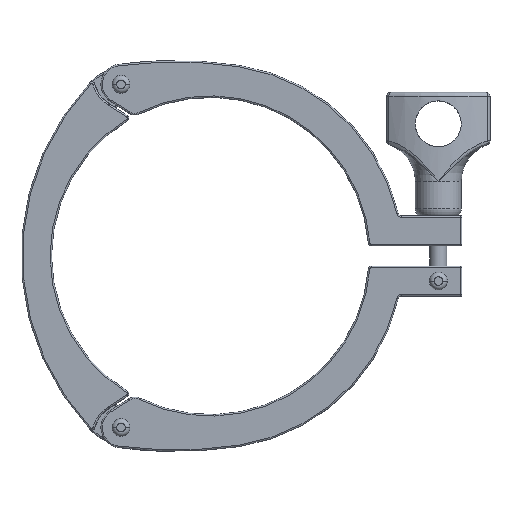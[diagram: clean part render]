
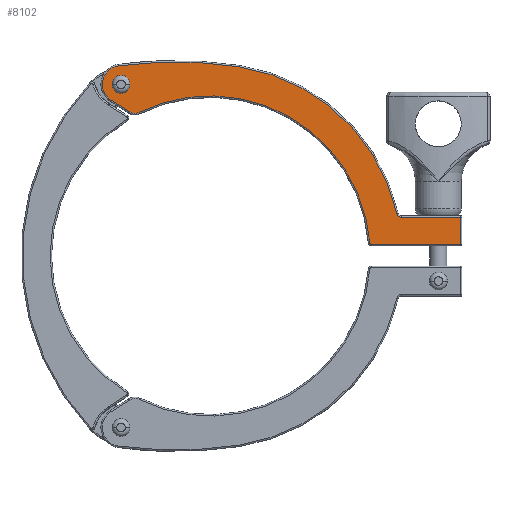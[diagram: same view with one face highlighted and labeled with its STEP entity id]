
A CAD part, top view. The second image highlights one B-rep face of the part: STEP entity #8102.
In plain terms, the highlighted planar face has unit normal (0, 0, 1).
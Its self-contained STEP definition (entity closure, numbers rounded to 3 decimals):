
#202 = VERTEX_POINT ( 'NONE', #16806 ) ;
#465 = DIRECTION ( 'NONE',  ( 0., 0., -1. ) ) ;
#601 = LINE ( 'NONE', #13490, #9735 ) ;
#717 = ORIENTED_EDGE ( 'NONE', *, *, #5916, .T. ) ;
#753 = DIRECTION ( 'NONE',  ( 0., 0., 1. ) ) ;
#900 = ORIENTED_EDGE ( 'NONE', *, *, #6591, .T. ) ;
#917 = EDGE_CURVE ( 'NONE', #4193, #10293, #17503, .T. ) ;
#952 = AXIS2_PLACEMENT_3D ( 'NONE', #12270, #10872, #9201 ) ;
#958 = CARTESIAN_POINT ( 'NONE',  ( -26.219, 53.133, 9.4 ) ) ;
#1240 = DIRECTION ( 'NONE',  ( 1., 0., 0. ) ) ;
#1431 = VERTEX_POINT ( 'NONE', #10797 ) ;
#1679 = EDGE_CURVE ( 'NONE', #17566, #202, #601, .T. ) ;
#1992 = VECTOR ( 'NONE', #7336, 1000. ) ;
#2021 = ORIENTED_EDGE ( 'NONE', *, *, #15983, .T. ) ;
#2198 = VERTEX_POINT ( 'NONE', #4668 ) ;
#2317 = CARTESIAN_POINT ( 'NONE',  ( 0., 0., 9.4 ) ) ;
#2442 = CARTESIAN_POINT ( 'NONE',  ( 56.07, 4., 9.4 ) ) ;
#2622 = LINE ( 'NONE', #17201, #17672 ) ;
#2687 = CARTESIAN_POINT ( 'NONE',  ( -33.78, 59.75, 9.4 ) ) ;
#2757 = EDGE_CURVE ( 'NONE', #8832, #9497, #3081, .T. ) ;
#3081 = CIRCLE ( 'NONE', #9080, 3.5 ) ;
#3161 = DIRECTION ( 'NONE',  ( 1., 0., 0. ) ) ;
#3260 = ORIENTED_EDGE ( 'NONE', *, *, #11789, .T. ) ;
#3290 = CIRCLE ( 'NONE', #9061, 146.5 ) ;
#3387 = VERTEX_POINT ( 'NONE', #17616 ) ;
#3504 = DIRECTION ( 'NONE',  ( 0., 0., 1. ) ) ;
#3751 = DIRECTION ( 'NONE',  ( 1., 0., 0. ) ) ;
#4193 = VERTEX_POINT ( 'NONE', #5631 ) ;
#4475 = LINE ( 'NONE', #18617, #1992 ) ;
#4668 = CARTESIAN_POINT ( 'NONE',  ( -31.96, 66.19, 9.4 ) ) ;
#4979 = CARTESIAN_POINT ( 'NONE',  ( 10.106, 65.844, 9.4 ) ) ;
#5049 = DIRECTION ( 'NONE',  ( 1., 0., 0. ) ) ;
#5079 = EDGE_CURVE ( 'NONE', #202, #3387, #2622, .T. ) ;
#5288 = LINE ( 'NONE', #11548, #16498 ) ;
#5407 = CIRCLE ( 'NONE', #952, 6.5 ) ;
#5631 = CARTESIAN_POINT ( 'NONE',  ( 66.443, 13.5, 9.4 ) ) ;
#5855 = EDGE_LOOP ( 'NONE', ( #13149, #14172, #6266, #12271, #16046, #6358, #6619, #900, #9655, #717, #2021 ) ) ;
#5916 = EDGE_CURVE ( 'NONE', #9497, #9864, #16086, .T. ) ;
#6266 = ORIENTED_EDGE ( 'NONE', *, *, #12943, .T. ) ;
#6273 = CARTESIAN_POINT ( 'NONE',  ( -12.119, -78.96, 9.4 ) ) ;
#6358 = ORIENTED_EDGE ( 'NONE', *, *, #16199, .T. ) ;
#6528 = EDGE_LOOP ( 'NONE', ( #14800, #3260 ) ) ;
#6591 = EDGE_CURVE ( 'NONE', #1431, #8832, #5288, .T. ) ;
#6619 = ORIENTED_EDGE ( 'NONE', *, *, #12648, .T. ) ;
#6727 = AXIS2_PLACEMENT_3D ( 'NONE', #18054, #12213, #5049 ) ;
#6760 = DIRECTION ( 'NONE',  ( 0., 0., -1. ) ) ;
#7275 = AXIS2_PLACEMENT_3D ( 'NONE', #16478, #465, #9009 ) ;
#7336 = DIRECTION ( 'NONE',  ( -1., 0., 0. ) ) ;
#8095 = CIRCLE ( 'NONE', #17957, 0.5 ) ;
#8102 = ADVANCED_FACE ( 'NONE', ( #11222, #8920 ), #18192, .T. ) ;
#8210 = DIRECTION ( 'NONE',  ( 0., 1., 0. ) ) ;
#8531 = CARTESIAN_POINT ( 'NONE',  ( -28.38, 59.75, 9.4 ) ) ;
#8620 = CIRCLE ( 'NONE', #14633, 66.615 ) ;
#8641 = CIRCLE ( 'NONE', #7275, 2.7 ) ;
#8730 = DIRECTION ( 'NONE',  ( 0.846, -0.534, 0. ) ) ;
#8819 = VERTEX_POINT ( 'NONE', #2687 ) ;
#8832 = VERTEX_POINT ( 'NONE', #18737 ) ;
#8920 = FACE_OUTER_BOUND ( 'NONE', #5855, .T. ) ;
#9009 = DIRECTION ( 'NONE',  ( 1., 0., 0. ) ) ;
#9061 = AXIS2_PLACEMENT_3D ( 'NONE', #6273, #14972, #3161 ) ;
#9080 = AXIS2_PLACEMENT_3D ( 'NONE', #958, #17017, #11283 ) ;
#9104 = DIRECTION ( 'NONE',  ( 1., 0., 0. ) ) ;
#9201 = DIRECTION ( 'NONE',  ( 1., 0., 0. ) ) ;
#9497 = VERTEX_POINT ( 'NONE', #13719 ) ;
#9655 = ORIENTED_EDGE ( 'NONE', *, *, #2757, .T. ) ;
#9735 = VECTOR ( 'NONE', #9104, 1000. ) ;
#9864 = VERTEX_POINT ( 'NONE', #10406 ) ;
#10293 = VERTEX_POINT ( 'NONE', #11158 ) ;
#10406 = CARTESIAN_POINT ( 'NONE',  ( 55.571, 4.46, 9.4 ) ) ;
#10717 = EDGE_CURVE ( 'NONE', #11771, #8819, #15051, .T. ) ;
#10765 = CARTESIAN_POINT ( 'NONE',  ( 0., 0., 9.4 ) ) ;
#10797 = CARTESIAN_POINT ( 'NONE',  ( -34.55, 54.254, 9.4 ) ) ;
#10872 = DIRECTION ( 'NONE',  ( 0., 0., 1. ) ) ;
#11158 = CARTESIAN_POINT ( 'NONE',  ( 64.98, 14.67, 9.4 ) ) ;
#11222 = FACE_BOUND ( 'NONE', #6528, .T. ) ;
#11283 = DIRECTION ( 'NONE',  ( 1., 0., 0. ) ) ;
#11548 = CARTESIAN_POINT ( 'NONE',  ( 14.645, 23.198, 9.4 ) ) ;
#11771 = VERTEX_POINT ( 'NONE', #8531 ) ;
#11789 = EDGE_CURVE ( 'NONE', #8819, #11771, #8641, .T. ) ;
#12210 = CARTESIAN_POINT ( 'NONE',  ( 0., 0., 9.4 ) ) ;
#12213 = DIRECTION ( 'NONE',  ( 0., 0., -1. ) ) ;
#12270 = CARTESIAN_POINT ( 'NONE',  ( -31.08, 59.75, 9.4 ) ) ;
#12271 = ORIENTED_EDGE ( 'NONE', *, *, #917, .T. ) ;
#12459 = AXIS2_PLACEMENT_3D ( 'NONE', #2317, #6760, #3751 ) ;
#12648 = EDGE_CURVE ( 'NONE', #2198, #1431, #5407, .T. ) ;
#12657 = EDGE_CURVE ( 'NONE', #10293, #13947, #8620, .T. ) ;
#12879 = CARTESIAN_POINT ( 'NONE',  ( 56.07, 4.5, 9.4 ) ) ;
#12943 = EDGE_CURVE ( 'NONE', #3387, #4193, #4475, .T. ) ;
#13149 = ORIENTED_EDGE ( 'NONE', *, *, #1679, .T. ) ;
#13490 = CARTESIAN_POINT ( 'NONE',  ( 0., 4., 9.4 ) ) ;
#13719 = CARTESIAN_POINT ( 'NONE',  ( -24.67, 49.995, 9.4 ) ) ;
#13744 = DIRECTION ( 'NONE',  ( 1., 0., 0. ) ) ;
#13947 = VERTEX_POINT ( 'NONE', #4979 ) ;
#14172 = ORIENTED_EDGE ( 'NONE', *, *, #5079, .T. ) ;
#14633 = AXIS2_PLACEMENT_3D ( 'NONE', #12210, #3504, #15193 ) ;
#14800 = ORIENTED_EDGE ( 'NONE', *, *, #10717, .T. ) ;
#14972 = DIRECTION ( 'NONE',  ( 0., 0., 1. ) ) ;
#15051 = CIRCLE ( 'NONE', #15208, 2.7 ) ;
#15193 = DIRECTION ( 'NONE',  ( 1., 0., 0. ) ) ;
#15208 = AXIS2_PLACEMENT_3D ( 'NONE', #17300, #18568, #1240 ) ;
#15822 = DIRECTION ( 'NONE',  ( 0., 0., 1. ) ) ;
#15983 = EDGE_CURVE ( 'NONE', #9864, #17566, #8095, .T. ) ;
#16046 = ORIENTED_EDGE ( 'NONE', *, *, #12657, .T. ) ;
#16086 = CIRCLE ( 'NONE', #12459, 55.75 ) ;
#16199 = EDGE_CURVE ( 'NONE', #13947, #2198, #3290, .T. ) ;
#16478 = CARTESIAN_POINT ( 'NONE',  ( -31.08, 59.75, 9.4 ) ) ;
#16498 = VECTOR ( 'NONE', #8730, 1000. ) ;
#16806 = CARTESIAN_POINT ( 'NONE',  ( 87.152, 4., 9.4 ) ) ;
#17017 = DIRECTION ( 'NONE',  ( 0., 0., 1. ) ) ;
#17201 = CARTESIAN_POINT ( 'NONE',  ( 87.152, 0., 9.4 ) ) ;
#17300 = CARTESIAN_POINT ( 'NONE',  ( -31.08, 59.75, 9.4 ) ) ;
#17503 = CIRCLE ( 'NONE', #6727, 1.5 ) ;
#17566 = VERTEX_POINT ( 'NONE', #2442 ) ;
#17616 = CARTESIAN_POINT ( 'NONE',  ( 87.152, 13.5, 9.4 ) ) ;
#17672 = VECTOR ( 'NONE', #8210, 1000. ) ;
#17709 = AXIS2_PLACEMENT_3D ( 'NONE', #10765, #753, #13744 ) ;
#17957 = AXIS2_PLACEMENT_3D ( 'NONE', #12879, #15822, #18601 ) ;
#18054 = CARTESIAN_POINT ( 'NONE',  ( 66.443, 15., 9.4 ) ) ;
#18192 = PLANE ( 'NONE',  #17709 ) ;
#18568 = DIRECTION ( 'NONE',  ( 0., 0., -1. ) ) ;
#18601 = DIRECTION ( 'NONE',  ( 1., 0., 0. ) ) ;
#18617 = CARTESIAN_POINT ( 'NONE',  ( 0., 13.5, 9.4 ) ) ;
#18737 = CARTESIAN_POINT ( 'NONE',  ( -28.087, 50.174, 9.4 ) ) ;
